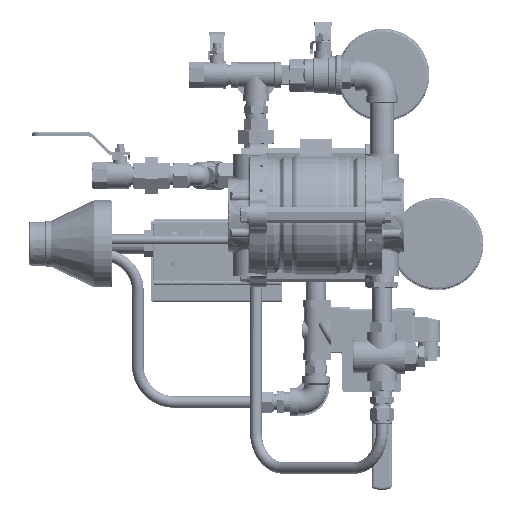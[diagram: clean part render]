
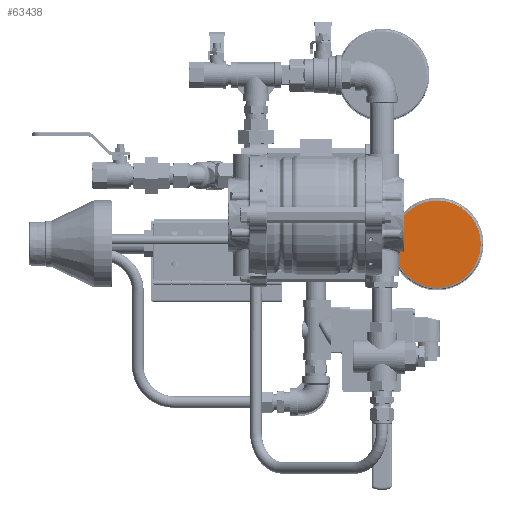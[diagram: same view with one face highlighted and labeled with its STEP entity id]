
A CAD part, top view. The second image highlights one B-rep face of the part: STEP entity #63438.
In plain terms, the highlighted planar face has unit normal (0, 0, 1) as drawn and (0, 0, -1) by its records, which use the part's own axes.
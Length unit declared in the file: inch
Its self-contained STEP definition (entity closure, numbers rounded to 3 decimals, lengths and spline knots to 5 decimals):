
#5913=PLANE('',#71274);
#20212=FACE_OUTER_BOUND('',#25020,.T.);
#25020=EDGE_LOOP('',(#58185));
#27620=CIRCLE('',#71261,47.5);
#33166=VERTEX_POINT('',#122785);
#41593=EDGE_CURVE('',#33166,#33166,#27620,.T.);
#58185=ORIENTED_EDGE('',*,*,#41593,.F.);
#63438=ADVANCED_FACE('',(#20212),#5913,.F.);
#71261=AXIS2_PLACEMENT_3D('',#122786,#87251,#87252);
#71274=AXIS2_PLACEMENT_3D('',#122805,#87277,#87278);
#87251=DIRECTION('center_axis',(0.,0.,1.));
#87252=DIRECTION('ref_axis',(1.,0.,0.));
#87277=DIRECTION('center_axis',(0.,0.,1.));
#87278=DIRECTION('ref_axis',(1.,0.,0.));
#122785=CARTESIAN_POINT('',(-47.5,0.,-49.));
#122786=CARTESIAN_POINT('Origin',(0.,0.,-49.));
#122805=CARTESIAN_POINT('Origin',(0.,0.,-49.));
